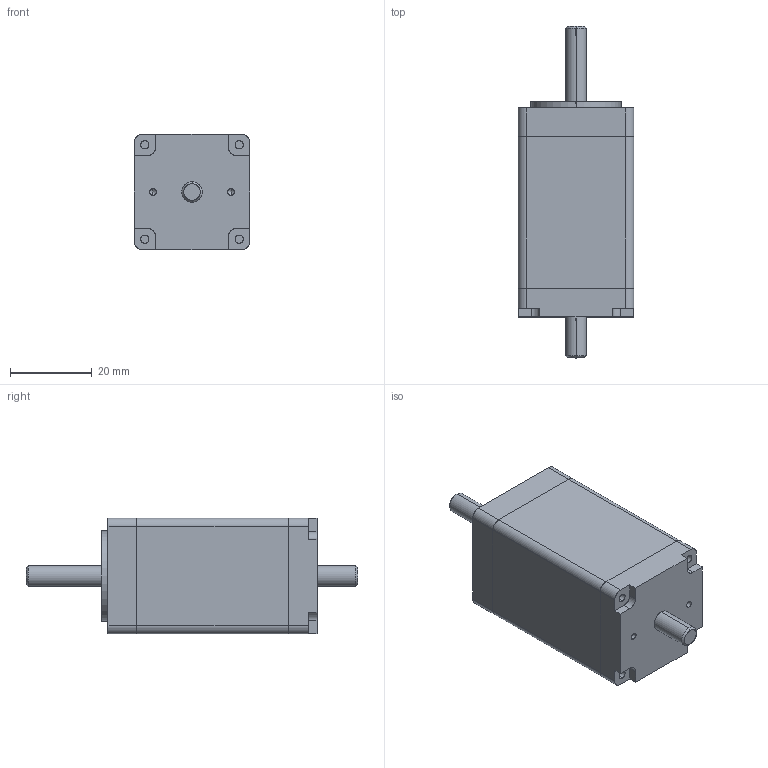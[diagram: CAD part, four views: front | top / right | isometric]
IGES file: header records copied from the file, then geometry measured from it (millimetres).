
Start section: SolidWorks IGES file using analytic representation for surfaces
Global section: file name: C:\Users\Christine\Documents\Arcus\Project #21\STM-11-2-3\STM-11-2-3.IGS; native system: SolidWorks 2008; preprocessor: SolidWorks 2008; author: Christine; date: 131021.210642; units: millimetre
Bounding box: 28.2 x 81 x 28.2 mm (x, y, z)
Surface area: 11244.9 mm2 (no closed solid volume)
Topology: 0 solids, 0 shells, 103 faces, 1528 edges, 1516 vertices
Faces by surface type: revolution 66, bspline 37
